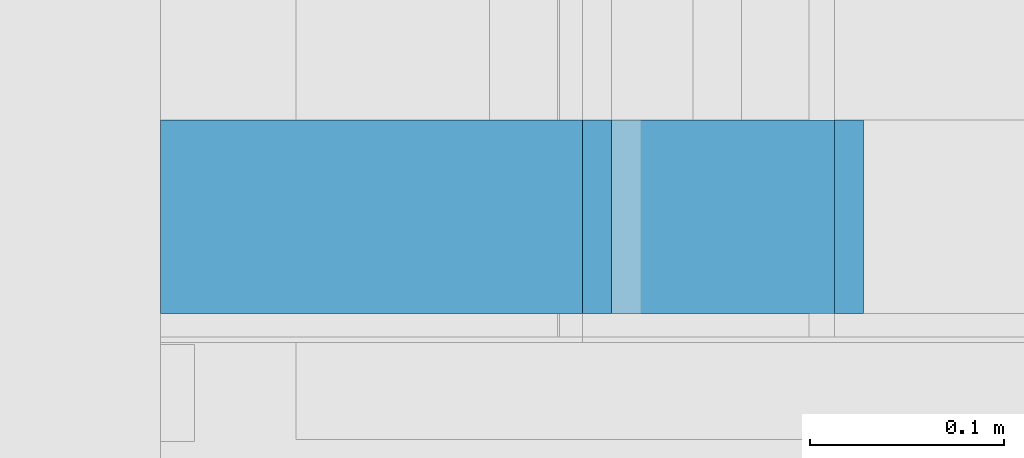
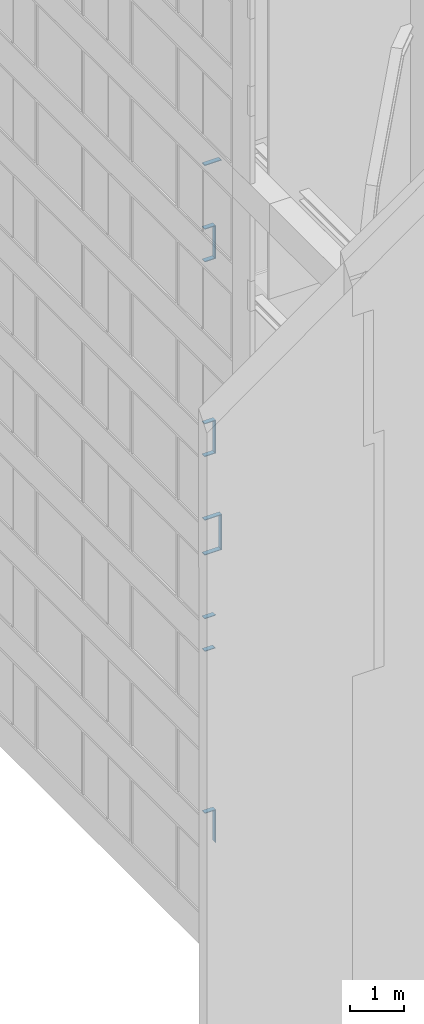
# One storey, part 170 of 583: 14 building element parts, 14 elements without a shape of their own.
"""IFC2X3 building model written with IfcOpenShell, lengths in metres."""

from ifc_helpers import new_model, entity, si_unit, converted_unit, derived_unit, money_unit, direction, frame, origin_with_axes, place, context, subcontext, project, spatial, polyline, outline, extrude, material, type_object, element, aggregate, save


model = new_model("IFC2X3")

# Units and contexts
model_context = context("Model", 3, precision=1e-05, world=origin_with_axes(), true_north=direction((0.0, 1.0)))
body_context = subcontext(model_context, "Body", "Model", "MODEL_VIEW", scale=1.0)
ifc_project = project(units=[si_unit("LENGTHUNIT", "METRE"), si_unit("AREAUNIT", "SQUARE_METRE"), si_unit("VOLUMEUNIT", "CUBIC_METRE"), si_unit("ABSORBEDDOSEUNIT", "GRAY"), si_unit("AMOUNTOFSUBSTANCEUNIT", "MOLE"), si_unit("DOSEEQUIVALENTUNIT", "SIEVERT"), si_unit("ELECTRICCAPACITANCEUNIT", "FARAD"), si_unit("ELECTRICCHARGEUNIT", "COULOMB"), si_unit("ELECTRICCONDUCTANCEUNIT", "SIEMENS"), si_unit("ELECTRICCURRENTUNIT", "AMPERE"), si_unit("ELECTRICRESISTANCEUNIT", "OHM"), si_unit("ELECTRICVOLTAGEUNIT", "VOLT"), si_unit("ENERGYUNIT", "JOULE"), si_unit("FORCEUNIT", "NEWTON"), si_unit("FREQUENCYUNIT", "HERTZ"), si_unit("ILLUMINANCEUNIT", "LUX"), si_unit("INDUCTANCEUNIT", "HENRY"), si_unit("LUMINOUSFLUXUNIT", "LUMEN"), si_unit("LUMINOUSINTENSITYUNIT", "CANDELA"), si_unit("MAGNETICFLUXDENSITYUNIT", "TESLA"), si_unit("MAGNETICFLUXUNIT", "WEBER"), si_unit("MASSUNIT", "GRAM"), converted_unit("PLANEANGLEUNIT", "degree", entity("IfcReal", 0.0174532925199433), si_unit("PLANEANGLEUNIT", "RADIAN"), dimensions=[0, 0, 0, 0, 0, 0, 0]), si_unit("POWERUNIT", "WATT"), si_unit("PRESSUREUNIT", "PASCAL"), si_unit("RADIOACTIVITYUNIT", "BECQUEREL"), si_unit("SOLIDANGLEUNIT", "STERADIAN"), si_unit("THERMODYNAMICTEMPERATUREUNIT", "KELVIN"), si_unit("TIMEUNIT", "SECOND"), derived_unit("ACCELERATIONUNIT", [(si_unit("LENGTHUNIT", "METRE"), 1), (si_unit("TIMEUNIT", "SECOND"), -2)]), derived_unit("ANGULARVELOCITYUNIT", [(converted_unit("PLANEANGLEUNIT", "degree", entity("IfcReal", 0.0174532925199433), si_unit("PLANEANGLEUNIT", "RADIAN"), dimensions=[0, 0, 0, 0, 0, 0, 0]), 1), (si_unit("TIMEUNIT", "SECOND"), -1)]), derived_unit("CURVATUREUNIT", [(converted_unit("PLANEANGLEUNIT", "degree", entity("IfcReal", 0.0174532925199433), si_unit("PLANEANGLEUNIT", "RADIAN"), dimensions=[0, 0, 0, 0, 0, 0, 0]), 1), (si_unit("LENGTHUNIT", "METRE"), -1)]), derived_unit("DYNAMICVISCOSITYUNIT", [(si_unit("PRESSUREUNIT", "PASCAL"), 1), (si_unit("TIMEUNIT", "SECOND"), 1)]), derived_unit("HEATFLUXDENSITYUNIT", [(si_unit("POWERUNIT", "WATT"), 1), (si_unit("LENGTHUNIT", "METRE"), -2)]), derived_unit("HEATINGVALUEUNIT", [(si_unit("ENERGYUNIT", "JOULE"), 1), (si_unit("MASSUNIT", "GRAM"), -1)]), derived_unit("INTEGERCOUNTRATEUNIT", [(si_unit("TIMEUNIT", "SECOND"), -1)]), derived_unit("IONCONCENTRATIONUNIT", [(si_unit("MASSUNIT", "GRAM"), 1), (si_unit("VOLUMEUNIT", "CUBIC_METRE"), -1)]), derived_unit("ISOTHERMALMOISTURECAPACITYUNIT", [(si_unit("VOLUMEUNIT", "CUBIC_METRE"), 1), (si_unit("MASSUNIT", "GRAM"), -1)]), derived_unit("KINEMATICVISCOSITYUNIT", [(si_unit("AREAUNIT", "SQUARE_METRE"), 1), (si_unit("TIMEUNIT", "SECOND"), -1)]), derived_unit("LINEARFORCEUNIT", [(si_unit("FORCEUNIT", "NEWTON"), 1), (si_unit("LENGTHUNIT", "METRE"), -1)]), derived_unit("LINEARMOMENTUNIT", [(si_unit("FORCEUNIT", "NEWTON"), 1), (si_unit("LENGTHUNIT", "METRE"), -1)]), derived_unit("LINEARSTIFFNESSUNIT", [(si_unit("FORCEUNIT", "NEWTON"), 1), (si_unit("LENGTHUNIT", "METRE"), -1)]), derived_unit("LINEARVELOCITYUNIT", [(si_unit("LENGTHUNIT", "METRE"), 1), (si_unit("TIMEUNIT", "SECOND"), -1)]), derived_unit("LUMINOUSINTENSITYDISTRIBUTIONUNIT", [(si_unit("LUMINOUSINTENSITYUNIT", "CANDELA"), 1), (si_unit("LUMINOUSFLUXUNIT", "LUMEN"), -1)]), derived_unit("MASSDENSITYUNIT", [(si_unit("MASSUNIT", "GRAM"), 1), (si_unit("VOLUMEUNIT", "CUBIC_METRE"), -1)]), derived_unit("MASSFLOWRATEUNIT", [(si_unit("MASSUNIT", "GRAM"), 1), (si_unit("TIMEUNIT", "SECOND"), -1)]), derived_unit("MASSPERLENGTHUNIT", [(si_unit("MASSUNIT", "GRAM"), 1), (si_unit("LENGTHUNIT", "METRE"), -1)]), derived_unit("MODULUSOFELASTICITYUNIT", [(si_unit("FORCEUNIT", "NEWTON"), 1), (si_unit("AREAUNIT", "SQUARE_METRE"), -1)]), derived_unit("MODULUSOFLINEARSUBGRADEREACTIONUNIT", [(si_unit("FORCEUNIT", "NEWTON"), 1), (si_unit("LENGTHUNIT", "METRE"), -2)]), derived_unit("MODULUSOFROTATIONALSUBGRADEREACTIONUNIT", [(si_unit("FORCEUNIT", "NEWTON"), 1), (si_unit("LENGTHUNIT", "METRE"), 1)]), derived_unit("MODULUSOFSUBGRADEREACTIONUNIT", [(si_unit("FORCEUNIT", "NEWTON"), 1), (si_unit("VOLUMEUNIT", "CUBIC_METRE"), -1)]), derived_unit("MOISTUREDIFFUSIVITYUNIT", [(si_unit("VOLUMEUNIT", "CUBIC_METRE"), 1), (si_unit("TIMEUNIT", "SECOND"), -1)]), derived_unit("MOLECULARWEIGHTUNIT", [(si_unit("MASSUNIT", "GRAM"), 1), (si_unit("AMOUNTOFSUBSTANCEUNIT", "MOLE"), -1)]), derived_unit("PLANARFORCEUNIT", [(si_unit("FORCEUNIT", "NEWTON"), 1), (si_unit("LENGTHUNIT", "METRE"), -2)]), derived_unit("ROTATIONALFREQUENCYUNIT", [(si_unit("TIMEUNIT", "SECOND"), -1)]), derived_unit("ROTATIONALMASSUNIT", [(si_unit("MASSUNIT", "GRAM"), 1), (si_unit("LENGTHUNIT", "METRE"), 2)]), derived_unit("ROTATIONALSTIFFNESSUNIT", [(si_unit("FORCEUNIT", "NEWTON"), 1), (si_unit("LENGTHUNIT", "METRE"), 1), (converted_unit("PLANEANGLEUNIT", "degree", entity("IfcReal", 0.0174532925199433), si_unit("PLANEANGLEUNIT", "RADIAN"), dimensions=[0, 0, 0, 0, 0, 0, 0]), -1)]), derived_unit("SECTIONAREAINTEGRALUNIT", [(si_unit("LENGTHUNIT", "METRE"), 5)]), derived_unit("SECTIONMODULUSUNIT", [(si_unit("LENGTHUNIT", "METRE"), 3)]), derived_unit("SHEARMODULUSUNIT", [(si_unit("FORCEUNIT", "NEWTON"), 1), (si_unit("AREAUNIT", "SQUARE_METRE"), -1)]), derived_unit("SOUNDPOWERUNIT", [(si_unit("ENERGYUNIT", "JOULE"), 1), (si_unit("TIMEUNIT", "SECOND"), -1)]), derived_unit("SPECIFICHEATCAPACITYUNIT", [(si_unit("FORCEUNIT", "NEWTON"), 1), (si_unit("MASSUNIT", "GRAM"), -1), (si_unit("THERMODYNAMICTEMPERATUREUNIT", "KELVIN"), -1)]), derived_unit("TEMPERATUREGRADIENTUNIT", [(si_unit("THERMODYNAMICTEMPERATUREUNIT", "KELVIN"), 1), (si_unit("LENGTHUNIT", "METRE"), -1)]), derived_unit("THERMALADMITTANCEUNIT", [(si_unit("POWERUNIT", "WATT"), 1), (si_unit("AREAUNIT", "SQUARE_METRE"), -1), (si_unit("THERMODYNAMICTEMPERATUREUNIT", "KELVIN"), -1)]), derived_unit("THERMALCONDUCTANCEUNIT", [(si_unit("POWERUNIT", "WATT"), 1), (si_unit("LENGTHUNIT", "METRE"), -1), (si_unit("THERMODYNAMICTEMPERATUREUNIT", "KELVIN"), -1)]), derived_unit("THERMALEXPANSIONCOEFFICIENTUNIT", [(si_unit("THERMODYNAMICTEMPERATUREUNIT", "KELVIN"), -1)]), derived_unit("THERMALRESISTANCEUNIT", [(si_unit("AREAUNIT", "SQUARE_METRE"), 1), (si_unit("POWERUNIT", "WATT"), -1)]), derived_unit("THERMALTRANSMITTANCEUNIT", [(si_unit("POWERUNIT", "WATT"), 1), (si_unit("AREAUNIT", "SQUARE_METRE"), -1), (si_unit("THERMODYNAMICTEMPERATUREUNIT", "KELVIN"), -1)]), derived_unit("TORQUEUNIT", [(si_unit("FORCEUNIT", "NEWTON"), 1), (si_unit("LENGTHUNIT", "METRE"), 1)]), derived_unit("VAPORPERMEABILITYUNIT", [(si_unit("MASSUNIT", "GRAM"), 1), (si_unit("TIMEUNIT", "SECOND"), -1)]), derived_unit("VOLUMETRICFLOWRATEUNIT", [(si_unit("VOLUMEUNIT", "CUBIC_METRE"), 1), (si_unit("TIMEUNIT", "SECOND"), -1)]), derived_unit("WARPINGCONSTANTUNIT", [(si_unit("LENGTHUNIT", "METRE"), 6)]), derived_unit("WARPINGMOMENTUNIT", [(si_unit("FORCEUNIT", "NEWTON"), 1), (si_unit("LENGTHUNIT", "METRE"), 2)]), money_unit("GBP")], contexts=[model_context])

# Site, building, storey
site_placement = place(None, origin_with_axes())
site = spatial("IfcSite", under=ifc_project, at=site_placement, Name="Site", CompositionType="ELEMENT")
building_placement = place(site_placement, origin_with_axes())
building = spatial("IfcBuilding", under=site, at=building_placement, Name="Building01", CompositionType="ELEMENT")
storey_placement = place(building_placement, frame((0.0, 0.0, 20.78), z_axis=(0.0, 0.0, 1.0), x_axis=(1.0, 0.0, 0.0)))
storey = spatial("IfcBuildingStorey", under=building, at=storey_placement, Name="RL", CompositionType="ELEMENT", Elevation=20.78)

# Wall, building element part
wall_type = type_object("IfcWallType", Name="SHE_A-Walls_Type06d_ExternalWallInsulation_48mm", PredefinedType="NOTDEFINED")
wall_1_placement = place(storey_placement, frame((0.27, 5.15, -18.537), z_axis=(0.0, 1.0, 0.0), x_axis=(0.0, 0.0, 1.0)))
wall_1 = element("IfcWall", 1, at=wall_1_placement, inside=storey, type_object=wall_type, Name="6D", ObjectType="SHE_A-Walls_Type06d_ExternalWallInsulation_48mm")
ifc_material = material(Name="A_BSUK_Walls_Timber")
building_element_part_1_placement = place(wall_1_placement, origin_with_axes())
building_element_part_1 = element("IfcBuildingElementPart", 2, at=building_element_part_1_placement, material=ifc_material, Name="2", context=body_context, shape_type="SweptSolid", body=[
    extrude(outline(polyline([(0.687, 0.063), (-0.063, 0.063), (-0.048, 0.048), (0.672, 0.048), (0.687, 0.063)])), frame((0.0, 0.0, 0.015), z_axis=(0.0, 0.0, 1.0), x_axis=(1.0, 0.0, 0.0)), (0.0, 0.0, 1.0), 0.1),
])
aggregate(wall_1, [building_element_part_1])

wall_2_placement = place(storey_placement, frame((0.27, 5.15, -17.913), z_axis=(0.0, 1.0, 0.0), x_axis=(-1.0, 0.0, 0.0)))
wall_2 = element("IfcWall", 3, at=wall_2_placement, inside=storey, type_object=wall_type, Name="6D", ObjectType="SHE_A-Walls_Type06d_ExternalWallInsulation_48mm")
building_element_part_2_placement = place(wall_2_placement, origin_with_axes())
building_element_part_2 = element("IfcBuildingElementPart", 4, at=building_element_part_2_placement, material=ifc_material, Name="2", context=body_context, shape_type="SweptSolid", body=[
    extrude(outline(polyline([(-0.063, 0.063), (-0.048, 0.048), (0.17, 0.048), (0.17, 0.063), (-0.063, 0.063)])), frame((0.0, 0.0, 0.015), z_axis=(0.0, 0.0, 1.0), x_axis=(1.0, 0.0, 0.0)), (0.0, 0.0, 1.0), 0.1),
])
aggregate(wall_2, [building_element_part_2])

wall_3_placement = place(storey_placement, frame((0.1, 5.15, -14.157), z_axis=(0.0, 1.0, 0.0), x_axis=(1.0, 0.0, 0.0)))
wall_3 = element("IfcWall", 5, at=wall_3_placement, inside=storey, type_object=wall_type, Name="6D", ObjectType="SHE_A-Walls_Type06d_ExternalWallInsulation_48mm")
building_element_part_3_placement = place(wall_3_placement, origin_with_axes())
building_element_part_3 = element("IfcBuildingElementPart", 6, at=building_element_part_3_placement, material=ifc_material, Name="2", context=body_context, shape_type="SweptSolid", body=[
    extrude(outline(polyline([(0.233, 0.063), (0.0, 0.063), (0.0, 0.048), (0.218, 0.048), (0.233, 0.063)])), frame((0.0, 0.0, 0.015), z_axis=(0.0, 0.0, 1.0), x_axis=(1.0, 0.0, 0.0)), (0.0, 0.0, 1.0), 0.1),
])
aggregate(wall_3, [building_element_part_3])

wall_4_placement = place(storey_placement, frame((0.27, 5.15, -13.533), z_axis=(0.0, 1.0, 0.0), x_axis=(-1.0, 0.0, 0.0)))
wall_4 = element("IfcWall", 7, at=wall_4_placement, inside=storey, type_object=wall_type, Name="6D", ObjectType="SHE_A-Walls_Type06d_ExternalWallInsulation_48mm")
building_element_part_4_placement = place(wall_4_placement, origin_with_axes())
building_element_part_4 = element("IfcBuildingElementPart", 8, at=building_element_part_4_placement, material=ifc_material, Name="2", context=body_context, shape_type="SweptSolid", body=[
    extrude(outline(polyline([(-0.063, 0.063), (-0.048, 0.048), (0.17, 0.048), (0.17, 0.063), (-0.063, 0.063)])), frame((0.0, 0.0, 0.015), z_axis=(0.0, 0.0, 1.0), x_axis=(1.0, 0.0, 0.0)), (0.0, 0.0, 1.0), 0.1),
])
aggregate(wall_4, [building_element_part_4])

wall_5_placement = place(storey_placement, frame((0.1, 5.15, -11.99), z_axis=(0.0, 1.0, 0.0), x_axis=(1.0, 0.0, 0.0)))
wall_5 = element("IfcWall", 9, at=wall_5_placement, inside=storey, type_object=wall_type, Name="6D", ObjectType="SHE_A-Walls_Type06d_ExternalWallInsulation_48mm")
building_element_part_5_placement = place(wall_5_placement, origin_with_axes())
building_element_part_5 = element("IfcBuildingElementPart", 10, at=building_element_part_5_placement, material=ifc_material, Name="2", context=body_context, shape_type="SweptSolid", body=[
    extrude(outline(polyline([(0.363, 0.063), (0.0, 0.063), (0.0, 0.048), (0.348, 0.048), (0.363, 0.063)])), frame((0.0, 0.0, 0.015), z_axis=(0.0, 0.0, 1.0), x_axis=(1.0, 0.0, 0.0)), (0.0, 0.0, 1.0), 0.1),
])
aggregate(wall_5, [building_element_part_5])

wall_6_placement = place(storey_placement, frame((0.4, 5.15, -11.99), z_axis=(0.0, 1.0, 0.0), x_axis=(0.0, 0.0, 1.0)))
wall_6 = element("IfcWall", 11, at=wall_6_placement, inside=storey, type_object=wall_type, Name="6D", ObjectType="SHE_A-Walls_Type06d_ExternalWallInsulation_48mm")
building_element_part_6_placement = place(wall_6_placement, origin_with_axes())
building_element_part_6 = element("IfcBuildingElementPart", 12, at=building_element_part_6_placement, material=ifc_material, Name="2", context=body_context, shape_type="SweptSolid", body=[
    extrude(outline(polyline([(0.733, 0.063), (-0.063, 0.063), (-0.048, 0.048), (0.718, 0.048), (0.733, 0.063)])), frame((0.0, 0.0, 0.015), z_axis=(0.0, 0.0, 1.0), x_axis=(1.0, 0.0, 0.0)), (0.0, 0.0, 1.0), 0.1),
])
aggregate(wall_6, [building_element_part_6])

wall_7_placement = place(storey_placement, frame((0.4, 5.15, -11.32), z_axis=(0.0, 1.0, 0.0), x_axis=(-1.0, 0.0, 0.0)))
wall_7 = element("IfcWall", 13, at=wall_7_placement, inside=storey, type_object=wall_type, Name="6D", ObjectType="SHE_A-Walls_Type06d_ExternalWallInsulation_48mm")
building_element_part_7_placement = place(wall_7_placement, origin_with_axes())
building_element_part_7 = element("IfcBuildingElementPart", 14, at=building_element_part_7_placement, material=ifc_material, Name="2", context=body_context, shape_type="SweptSolid", body=[
    extrude(outline(polyline([(-0.063, 0.063), (-0.048, 0.048), (0.3, 0.048), (0.3, 0.063), (-0.063, 0.063)])), frame((0.0, 0.0, 0.015), z_axis=(0.0, 0.0, 1.0), x_axis=(1.0, 0.0, 0.0)), (0.0, 0.0, 1.0), 0.1),
])
aggregate(wall_7, [building_element_part_7])

wall_8_placement = place(storey_placement, frame((0.1, 5.15, -9.777), z_axis=(0.0, 1.0, 0.0), x_axis=(1.0, 0.0, 0.0)))
wall_8 = element("IfcWall", 15, at=wall_8_placement, inside=storey, type_object=wall_type, Name="6D", ObjectType="SHE_A-Walls_Type06d_ExternalWallInsulation_48mm")
building_element_part_8_placement = place(wall_8_placement, origin_with_axes())
building_element_part_8 = element("IfcBuildingElementPart", 16, at=building_element_part_8_placement, material=ifc_material, Name="2", context=body_context, shape_type="SweptSolid", body=[
    extrude(outline(polyline([(0.233, 0.063), (0.0, 0.063), (0.0, 0.048), (0.218, 0.048), (0.233, 0.063)])), frame((0.0, 0.0, 0.015), z_axis=(0.0, 0.0, 1.0), x_axis=(1.0, 0.0, 0.0)), (0.0, 0.0, 1.0), 0.1),
])
aggregate(wall_8, [building_element_part_8])

wall_9_placement = place(storey_placement, frame((0.27, 5.15, -9.777), z_axis=(0.0, 1.0, 0.0), x_axis=(0.0, 0.0, 1.0)))
wall_9 = element("IfcWall", 17, at=wall_9_placement, inside=storey, type_object=wall_type, Name="6D", ObjectType="SHE_A-Walls_Type06d_ExternalWallInsulation_48mm")
building_element_part_9_placement = place(wall_9_placement, origin_with_axes())
building_element_part_9 = element("IfcBuildingElementPart", 18, at=building_element_part_9_placement, material=ifc_material, Name="2", context=body_context, shape_type="SweptSolid", body=[
    extrude(outline(polyline([(0.687, 0.063), (-0.063, 0.063), (-0.048, 0.048), (0.672, 0.048), (0.687, 0.063)])), frame((0.0, 0.0, 0.015), z_axis=(0.0, 0.0, 1.0), x_axis=(1.0, 0.0, 0.0)), (0.0, 0.0, 1.0), 0.1),
])
aggregate(wall_9, [building_element_part_9])

wall_10_placement = place(storey_placement, frame((0.27, 5.15, -9.153), z_axis=(0.0, 1.0, 0.0), x_axis=(-1.0, 0.0, 0.0)))
wall_10 = element("IfcWall", 19, at=wall_10_placement, inside=storey, type_object=wall_type, Name="6D", ObjectType="SHE_A-Walls_Type06d_ExternalWallInsulation_48mm")
building_element_part_10_placement = place(wall_10_placement, origin_with_axes())
building_element_part_10 = element("IfcBuildingElementPart", 20, at=building_element_part_10_placement, material=ifc_material, Name="2", context=body_context, shape_type="SweptSolid", body=[
    extrude(outline(polyline([(-0.063, 0.063), (-0.048, 0.048), (0.17, 0.048), (0.17, 0.063), (-0.063, 0.063)])), frame((0.0, 0.0, 0.015), z_axis=(0.0, 0.0, 1.0), x_axis=(1.0, 0.0, 0.0)), (0.0, 0.0, 1.0), 0.1),
])
aggregate(wall_10, [building_element_part_10])

wall_11_placement = place(storey_placement, frame((0.1, 5.15, -5.397), z_axis=(0.0, 1.0, 0.0), x_axis=(1.0, 0.0, 0.0)))
wall_11 = element("IfcWall", 21, at=wall_11_placement, inside=storey, type_object=wall_type, Name="6D", ObjectType="SHE_A-Walls_Type06d_ExternalWallInsulation_48mm")
building_element_part_11_placement = place(wall_11_placement, origin_with_axes())
building_element_part_11 = element("IfcBuildingElementPart", 22, at=building_element_part_11_placement, material=ifc_material, Name="2", context=body_context, shape_type="SweptSolid", body=[
    extrude(outline(polyline([(0.233, 0.063), (0.0, 0.063), (0.0, 0.048), (0.218, 0.048), (0.233, 0.063)])), frame((0.0, 0.0, 0.015), z_axis=(0.0, 0.0, 1.0), x_axis=(1.0, 0.0, 0.0)), (0.0, 0.0, 1.0), 0.1),
])
aggregate(wall_11, [building_element_part_11])

wall_12_placement = place(storey_placement, frame((0.27, 5.15, -5.397), z_axis=(0.0, 1.0, 0.0), x_axis=(0.0, 0.0, 1.0)))
wall_12 = element("IfcWall", 23, at=wall_12_placement, inside=storey, type_object=wall_type, Name="6D", ObjectType="SHE_A-Walls_Type06d_ExternalWallInsulation_48mm")
building_element_part_12_placement = place(wall_12_placement, origin_with_axes())
building_element_part_12 = element("IfcBuildingElementPart", 24, at=building_element_part_12_placement, material=ifc_material, Name="2", context=body_context, shape_type="SweptSolid", body=[
    extrude(outline(polyline([(0.687, 0.063), (-0.063, 0.063), (-0.048, 0.048), (0.672, 0.048), (0.687, 0.063)])), frame((0.0, 0.0, 0.015), z_axis=(0.0, 0.0, 1.0), x_axis=(1.0, 0.0, 0.0)), (0.0, 0.0, 1.0), 0.1),
])
aggregate(wall_12, [building_element_part_12])

wall_13_placement = place(storey_placement, frame((0.27, 5.15, -4.773), z_axis=(0.0, 1.0, 0.0), x_axis=(-1.0, 0.0, 0.0)))
wall_13 = element("IfcWall", 25, at=wall_13_placement, inside=storey, type_object=wall_type, Name="6D", ObjectType="SHE_A-Walls_Type06d_ExternalWallInsulation_48mm")
building_element_part_13_placement = place(wall_13_placement, origin_with_axes())
building_element_part_13 = element("IfcBuildingElementPart", 26, at=building_element_part_13_placement, material=ifc_material, Name="2", context=body_context, shape_type="SweptSolid", body=[
    extrude(outline(polyline([(-0.063, 0.063), (-0.048, 0.048), (0.17, 0.048), (0.17, 0.063), (-0.063, 0.063)])), frame((0.0, 0.0, 0.015), z_axis=(0.0, 0.0, 1.0), x_axis=(1.0, 0.0, 0.0)), (0.0, 0.0, 1.0), 0.1),
])
aggregate(wall_13, [building_element_part_13])

wall_14_placement = place(storey_placement, frame((0.1, 5.15, -3.23), z_axis=(0.0, 1.0, 0.0), x_axis=(1.0, 0.0, 0.0)))
wall_14 = element("IfcWall", 27, at=wall_14_placement, inside=storey, type_object=wall_type, Name="6D", ObjectType="SHE_A-Walls_Type06d_ExternalWallInsulation_48mm")
building_element_part_14_placement = place(wall_14_placement, origin_with_axes())
building_element_part_14 = element("IfcBuildingElementPart", 28, at=building_element_part_14_placement, material=ifc_material, Name="2", context=body_context, shape_type="SweptSolid", body=[
    extrude(outline(polyline([(0.363, 0.063), (0.0, 0.063), (0.0, 0.048), (0.348, 0.048), (0.363, 0.063)])), frame((0.0, 0.0, 0.015), z_axis=(0.0, 0.0, 1.0), x_axis=(1.0, 0.0, 0.0)), (0.0, 0.0, 1.0), 0.1),
])
aggregate(wall_14, [building_element_part_14])

save(model, "model.ifc")
